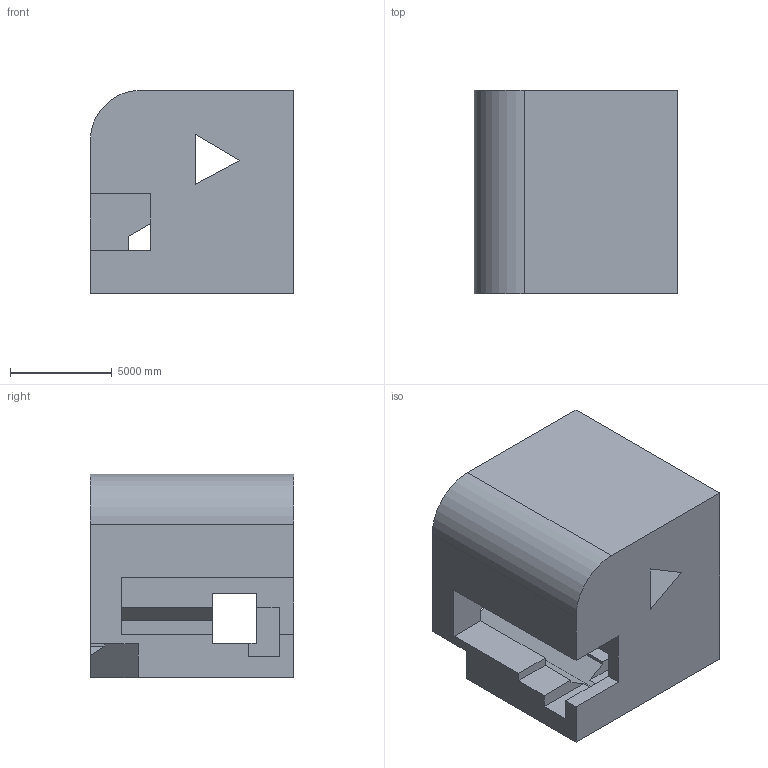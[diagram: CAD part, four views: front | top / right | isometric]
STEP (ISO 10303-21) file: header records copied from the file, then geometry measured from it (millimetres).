
FILE_DESCRIPTION (( 'STEP AP203' ), '1' );
FILE_NAME ('1656.STEP', '2022-08-19T11:25:21', ( 'user' ), ( '' ), 'SwSTEP 2.0', 'SolidWorks 2021', '' );
FILE_SCHEMA (( 'CONFIG_CONTROL_DESIGN' ));
Length unit declared in the file: centimetre
Products named in the file (1): 1656
Bounding box: 10000 x 10000 x 10000 mm (x, y, z)
Volume: 804575295153.7 mm3; surface area: 799728752.1 mm2
Topology: 1 solids, 1 shells, 36 faces, 111 edges, 74 vertices
Faces by surface type: plane 35, cylinder 1
Entity records: 1306 total; most frequent: CARTESIAN_POINT 222, ORIENTED_EDGE 222, DIRECTION 187, EDGE_CURVE 111, VECTOR 109, LINE 109, VERTEX_POINT 74, AXIS2_PLACEMENT_3D 39
